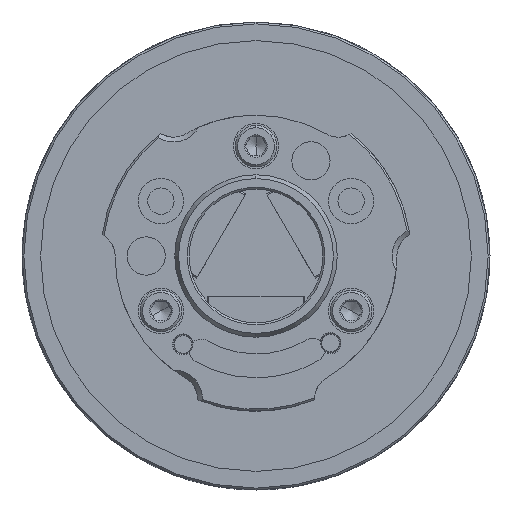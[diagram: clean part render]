
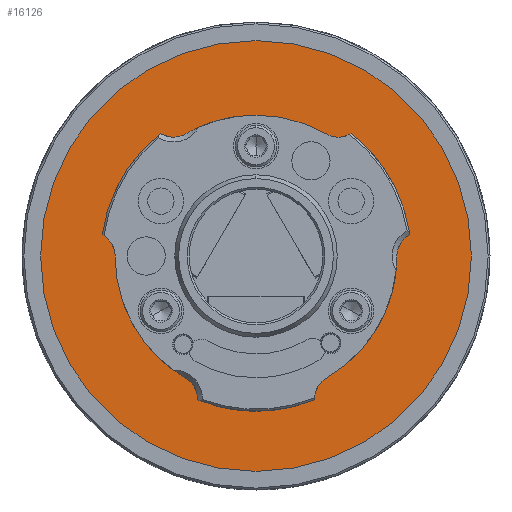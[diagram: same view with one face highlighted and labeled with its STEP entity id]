
A CAD part, front view. The second image highlights one B-rep face of the part: STEP entity #16126.
In plain terms, the highlighted planar face has unit normal (0, -1, 0).
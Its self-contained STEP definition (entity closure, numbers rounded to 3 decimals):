
#152 = CARTESIAN_POINT ( 'NONE',  ( 0., -22.5, 0. ) ) ;
#185 = ORIENTED_EDGE ( 'NONE', *, *, #4344, .F. ) ;
#383 = CARTESIAN_POINT ( 'NONE',  ( 0., -22.5, 29.5 ) ) ;
#1303 = DIRECTION ( 'NONE',  ( 0., -1., 0. ) ) ;
#1488 = DIRECTION ( 'NONE',  ( 0., 0., 1. ) ) ;
#1838 = EDGE_CURVE ( 'NONE', #22076, #3458, #29519, .T. ) ;
#3201 = CARTESIAN_POINT ( 'NONE',  ( 0., -22.5, 0. ) ) ;
#3458 = VERTEX_POINT ( 'NONE', #46227 ) ;
#4344 = EDGE_CURVE ( 'NONE', #45889, #39663, #27457, .T. ) ;
#5103 = DIRECTION ( 'NONE',  ( 0., 0., 1. ) ) ;
#5807 = DIRECTION ( 'NONE',  ( 0., 1., 0. ) ) ;
#6159 = CIRCLE ( 'NONE', #28925, 29.5 ) ;
#7075 = CARTESIAN_POINT ( 'NONE',  ( 0., -22.5, -45.1 ) ) ;
#8478 = PLANE ( 'NONE',  #31227 ) ;
#9837 = CIRCLE ( 'NONE', #24740, 45.1 ) ;
#10205 = DIRECTION ( 'NONE',  ( 0., 0., 1. ) ) ;
#10292 = AXIS2_PLACEMENT_3D ( 'NONE', #38767, #38239, #1488 ) ;
#10871 = EDGE_CURVE ( 'NONE', #39663, #45889, #9837, .T. ) ;
#13533 = ORIENTED_EDGE ( 'NONE', *, *, #1838, .T. ) ;
#13666 = FACE_BOUND ( 'NONE', #31960, .T. ) ;
#16126 = ADVANCED_FACE ( 'NONE', ( #13666, #30652 ), #8478, .T. ) ;
#22076 = VERTEX_POINT ( 'NONE', #383 ) ;
#23147 = ORIENTED_EDGE ( 'NONE', *, *, #10871, .F. ) ;
#23239 = DIRECTION ( 'NONE',  ( 0., 1., 0. ) ) ;
#24740 = AXIS2_PLACEMENT_3D ( 'NONE', #43902, #5807, #10205 ) ;
#27457 = CIRCLE ( 'NONE', #30113, 45.1 ) ;
#28161 = DIRECTION ( 'NONE',  ( 0., 0., 1. ) ) ;
#28881 = CARTESIAN_POINT ( 'NONE',  ( 0., -22.5, 45.1 ) ) ;
#28925 = AXIS2_PLACEMENT_3D ( 'NONE', #152, #29767, #5103 ) ;
#29519 = CIRCLE ( 'NONE', #10292, 29.5 ) ;
#29610 = EDGE_CURVE ( 'NONE', #3458, #22076, #6159, .T. ) ;
#29767 = DIRECTION ( 'NONE',  ( 0., 1., 0. ) ) ;
#30113 = AXIS2_PLACEMENT_3D ( 'NONE', #3201, #23239, #28161 ) ;
#30652 = FACE_OUTER_BOUND ( 'NONE', #49036, .T. ) ;
#31227 = AXIS2_PLACEMENT_3D ( 'NONE', #34225, #1303, #46568 ) ;
#31960 = EDGE_LOOP ( 'NONE', ( #13533, #41121 ) ) ;
#34225 = CARTESIAN_POINT ( 'NONE',  ( 0., -22.5, 29.5 ) ) ;
#38239 = DIRECTION ( 'NONE',  ( 0., 1., 0. ) ) ;
#38767 = CARTESIAN_POINT ( 'NONE',  ( 0., -22.5, 0. ) ) ;
#39663 = VERTEX_POINT ( 'NONE', #7075 ) ;
#41121 = ORIENTED_EDGE ( 'NONE', *, *, #29610, .T. ) ;
#43902 = CARTESIAN_POINT ( 'NONE',  ( 0., -22.5, 0. ) ) ;
#45889 = VERTEX_POINT ( 'NONE', #28881 ) ;
#46227 = CARTESIAN_POINT ( 'NONE',  ( 0., -22.5, -29.5 ) ) ;
#46568 = DIRECTION ( 'NONE',  ( 0., 0., -1. ) ) ;
#49036 = EDGE_LOOP ( 'NONE', ( #185, #23147 ) ) ;
